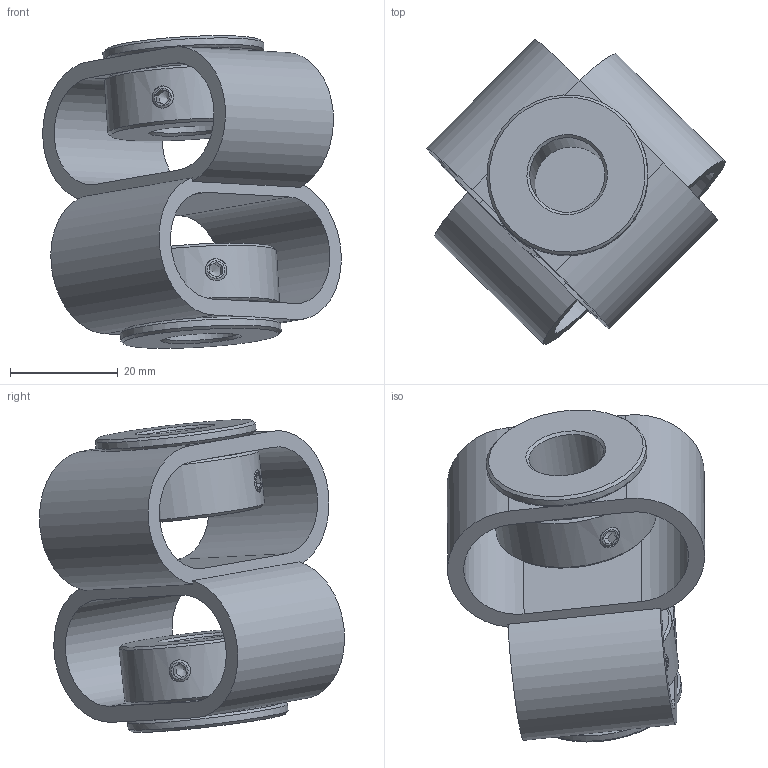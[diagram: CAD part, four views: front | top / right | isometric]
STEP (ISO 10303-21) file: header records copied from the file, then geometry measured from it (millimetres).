
FILE_DESCRIPTION(/* description */ (''),/* implementation_level */ '2;1');
FILE_NAME(/* name */ 'E:\ABP_bauteile\Doppelschlaufenkupplung\DKPS_5658\Doppelschlaufenkupplung_DKPS_5658_14_14.stp',/* time_stamp */ '2015-03-13T11:38:01+01:00',/* author */ ('Rob'),/* organization */ (''),/* preprocessor_version */ 'ST-DEVELOPER v15.6',/* originating_system */ 'Autodesk Inventor 2015',/* authorisation */ '');
FILE_SCHEMA (('CONFIG_CONTROL_DESIGN'));
Length unit declared in the file: millimetre
Products named in the file (1): Bauteil48
Bounding box: 55.53 x 56.74 x 58.16 mm (x, y, z)
Volume: 31641 mm3; surface area: 18131 mm2
Topology: 1 solids, 1 shells, 142 faces, 360 edges, 218 vertices
Faces by surface type: plane 84, cone 30, cylinder 28
Full cylindrical faces by diameter (mm): 4.134 x8, 14 x2, 21.5 x2, 23 x4, 30 x4
Entity records: 4088 total; most frequent: CARTESIAN_POINT 1027, DIRECTION 646, ORIENTED_EDGE 556, EDGE_CURVE 278, AXIS2_PLACEMENT_3D 257, EDGE_LOOP 210, VERTEX_POINT 182, FACE_OUTER_BOUND 142
